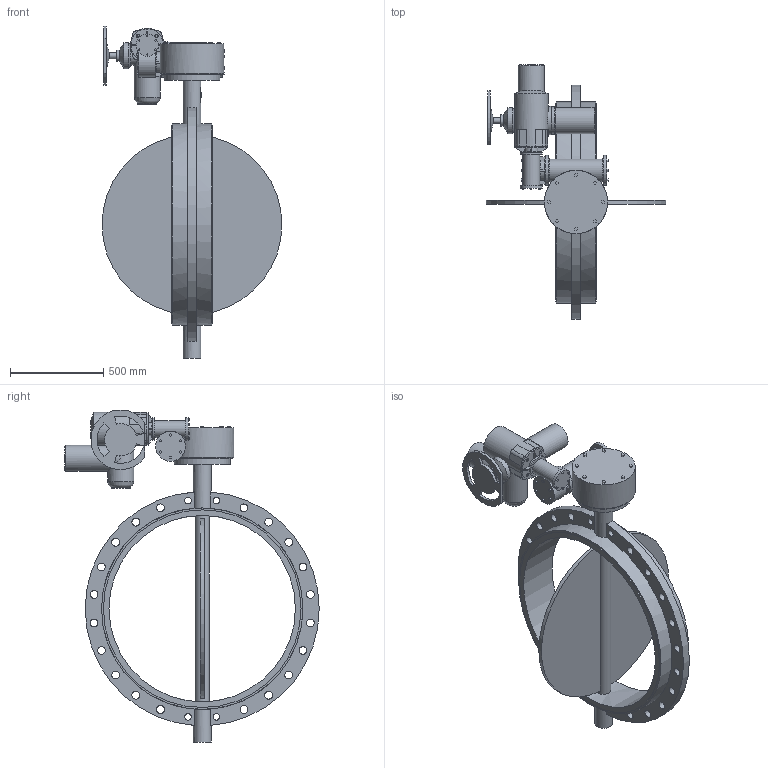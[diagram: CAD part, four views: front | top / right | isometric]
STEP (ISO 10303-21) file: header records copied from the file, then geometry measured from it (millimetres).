
FILE_DESCRIPTION(('STEP AP203'), '1');
FILE_NAME('青蜮铕 017W.YS_DN1000_PN16_MT903.A30', '', ('UNSPECIFIED'), ('UNSPECIFIED'), 'ASCON STEP Converter 1.6', 'ASCON Math Kernel', '');
FILE_SCHEMA(('CONFIG_CONTROL_DESIGN'));
Length unit declared in the file: millimetre
Bounding box: 965 x 1364.5 x 1780.49 mm (x, y, z)
Volume: 105378199.9 mm3; surface area: 5461901.6 mm2
Topology: 1 solids, 1 shells, 558 faces, 1442 edges, 950 vertices
Faces by surface type: plane 400, cylinder 111, cone 25, torus 20, bspline 2
Full cylindrical faces by diameter (mm): 13.835 x8, 14 x4, 18 x12, 32 x1, 34.67 x4, 42 x20, 60 x1, 75 x1, 90 x1, 95 x2, 100 x1, 120 x2, 121 x1, 140 x4, 147 x1, 151 x1, 161 x3, 175 x1, 300 x1, 340 x1, 1000 x1, 1060 x2, 1080 x2
Entity records: 24425 total; most frequent: CARTESIAN_POINT 6567, ORIENTED_EDGE 2658, DIRECTION 2629, EDGE_CURVE 1329, LINE 957, VECTOR 957, VERTEX_POINT 941, AXIS2_PLACEMENT_3D 836
